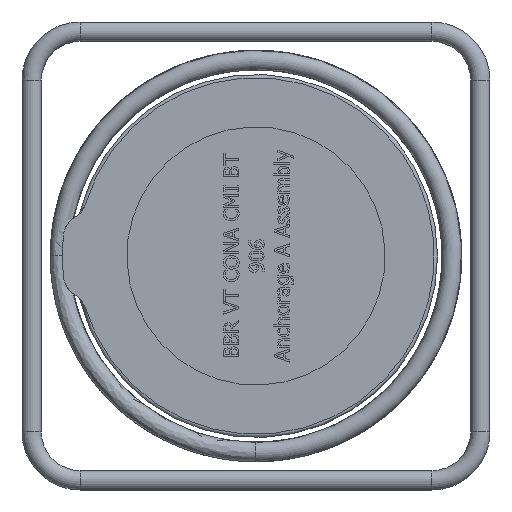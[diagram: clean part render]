
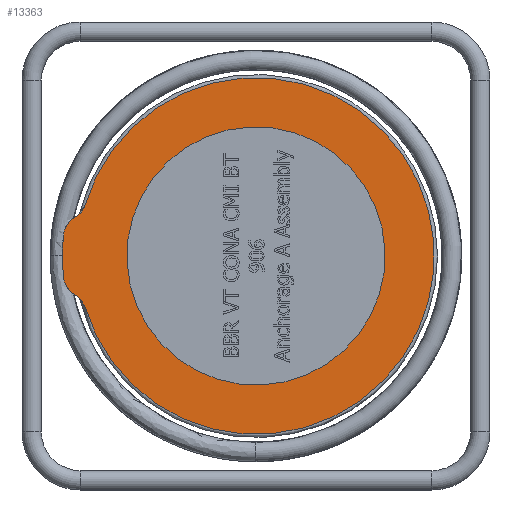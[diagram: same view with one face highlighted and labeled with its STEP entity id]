
A CAD part, left-side view. The second image highlights one B-rep face of the part: STEP entity #13363.
In plain terms, the highlighted planar face has unit normal (-1, 0, 0).
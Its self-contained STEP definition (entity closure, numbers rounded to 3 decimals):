
#632=B_SPLINE_CURVE_WITH_KNOTS('',3,(#24618,#24619,#24620,#24621,#24622,
#24623,#24624,#24625,#24626,#24627),.UNSPECIFIED.,.F.,.F.,(4,2,2,2,4),(-0.002,
0.,0.262,0.626,0.867),.UNSPECIFIED.);
#633=B_SPLINE_CURVE_WITH_KNOTS('',3,(#24631,#24632,#24633,#24634,#24635,
#24636,#24637,#24638,#24639,#24640),.UNSPECIFIED.,.F.,.F.,(4,2,2,2,4),(0.,
0.289,0.726,1.041,1.044),
 .UNSPECIFIED.);
#3382=PLANE('',#13888);
#3522=FACE_BOUND('',#5078,.T.);
#4222=FACE_OUTER_BOUND('',#5077,.T.);
#5077=EDGE_LOOP('',(#11924,#11925,#11926,#11927,#11928,#11929));
#5078=EDGE_LOOP('',(#11930));
#5348=CIRCLE('',#13878,15.);
#5349=CIRCLE('',#13882,120.);
#5354=CIRCLE('',#13889,110.5);
#5355=CIRCLE('',#13890,15.);
#5356=CIRCLE('',#13891,80.);
#6615=VERTEX_POINT('',#24572);
#6616=VERTEX_POINT('',#24578);
#6620=VERTEX_POINT('',#24600);
#6627=VERTEX_POINT('',#24617);
#6628=VERTEX_POINT('',#24628);
#6629=VERTEX_POINT('',#24630);
#6630=VERTEX_POINT('',#24642);
#8416=EDGE_CURVE('',#6615,#6616,#5348,.T.);
#8422=EDGE_CURVE('',#6620,#6616,#5349,.T.);
#8430=EDGE_CURVE('',#6627,#6615,#632,.T.);
#8431=EDGE_CURVE('',#6627,#6628,#5354,.T.);
#8432=EDGE_CURVE('',#6629,#6628,#633,.T.);
#8433=EDGE_CURVE('',#6620,#6629,#5355,.T.);
#8434=EDGE_CURVE('',#6630,#6630,#5356,.T.);
#11924=ORIENTED_EDGE('',*,*,#8430,.F.);
#11925=ORIENTED_EDGE('',*,*,#8431,.T.);
#11926=ORIENTED_EDGE('',*,*,#8432,.F.);
#11927=ORIENTED_EDGE('',*,*,#8433,.F.);
#11928=ORIENTED_EDGE('',*,*,#8422,.T.);
#11929=ORIENTED_EDGE('',*,*,#8416,.F.);
#11930=ORIENTED_EDGE('',*,*,#8434,.F.);
#13363=ADVANCED_FACE('',(#4222,#3522),#3382,.T.);
#13878=AXIS2_PLACEMENT_3D('',#24579,#15903,#15904);
#13882=AXIS2_PLACEMENT_3D('',#24601,#15913,#15914);
#13888=AXIS2_PLACEMENT_3D('',#24616,#15928,#15929);
#13889=AXIS2_PLACEMENT_3D('',#24629,#15930,#15931);
#13890=AXIS2_PLACEMENT_3D('',#24641,#15932,#15933);
#13891=AXIS2_PLACEMENT_3D('',#24643,#15934,#15935);
#15903=DIRECTION('center_axis',(1.,0.,0.));
#15904=DIRECTION('ref_axis',(0.,0.7,-0.714));
#15913=DIRECTION('center_axis',(-1.,0.,0.));
#15914=DIRECTION('ref_axis',(0.,1.,0.));
#15928=DIRECTION('center_axis',(-1.,0.,0.));
#15929=DIRECTION('ref_axis',(0.,0.,1.));
#15930=DIRECTION('center_axis',(-1.,0.,0.));
#15931=DIRECTION('ref_axis',(0.,0.,
1.));
#15932=DIRECTION('center_axis',(1.,0.,0.));
#15933=DIRECTION('ref_axis',(0.,0.7,0.714));
#15934=DIRECTION('center_axis',(-1.,0.,0.));
#15935=DIRECTION('ref_axis',(0.,0.954,0.301));
#24572=CARTESIAN_POINT('',(-92.904,61.917,-24.646));
#24578=CARTESIAN_POINT('',(-92.904,69.967,-12.924));
#24579=CARTESIAN_POINT('Origin',(-92.904,55.054,-11.308));
#24600=CARTESIAN_POINT('',(-92.904,69.967,12.924));
#24601=CARTESIAN_POINT('Origin',(-92.904,-49.335,0.));
#24616=CARTESIAN_POINT('Origin',(-92.904,-137.335,0.));
#24617=CARTESIAN_POINT('',(-92.904,56.655,-31.244));
#24618=CARTESIAN_POINT('Ctrl Pts',(-92.904,56.655,-31.244));
#24619=CARTESIAN_POINT('Ctrl Pts',(-92.904,56.659,-31.239));
#24620=CARTESIAN_POINT('Ctrl Pts',(-92.904,56.662,-31.234));
#24621=CARTESIAN_POINT('Ctrl Pts',(-92.904,57.145,-30.498));
#24622=CARTESIAN_POINT('Ctrl Pts',(-92.904,57.595,-29.723));
#24623=CARTESIAN_POINT('Ctrl Pts',(-92.904,58.667,-27.928));
#24624=CARTESIAN_POINT('Ctrl Pts',(-92.904,59.253,-26.993));
#24625=CARTESIAN_POINT('Ctrl Pts',(-92.904,60.419,-25.685));
#24626=CARTESIAN_POINT('Ctrl Pts',(-92.904,61.06,-25.087));
#24627=CARTESIAN_POINT('Ctrl Pts',(-92.904,61.917,-24.646));
#24628=CARTESIAN_POINT('',(-92.904,56.655,31.244));
#24629=CARTESIAN_POINT('Origin',(-92.904,-49.335,0.));
#24630=CARTESIAN_POINT('',(-92.904,61.917,24.646));
#24631=CARTESIAN_POINT('Ctrl Pts',(-92.904,61.917,24.646));
#24632=CARTESIAN_POINT('Ctrl Pts',(-92.904,61.06,25.087));
#24633=CARTESIAN_POINT('Ctrl Pts',(-92.904,60.419,25.685));
#24634=CARTESIAN_POINT('Ctrl Pts',(-92.904,59.253,26.993));
#24635=CARTESIAN_POINT('Ctrl Pts',(-92.904,58.667,27.928));
#24636=CARTESIAN_POINT('Ctrl Pts',(-92.904,57.595,29.723));
#24637=CARTESIAN_POINT('Ctrl Pts',(-92.904,57.145,30.498));
#24638=CARTESIAN_POINT('Ctrl Pts',(-92.904,56.662,31.234));
#24639=CARTESIAN_POINT('Ctrl Pts',(-92.904,56.659,31.239));
#24640=CARTESIAN_POINT('Ctrl Pts',(-92.904,56.655,31.244));
#24641=CARTESIAN_POINT('Origin',(-92.904,55.054,11.308));
#24642=CARTESIAN_POINT('',(-92.904,-73.376,76.302));
#24643=CARTESIAN_POINT('Origin',(-92.904,-49.335,0.));
